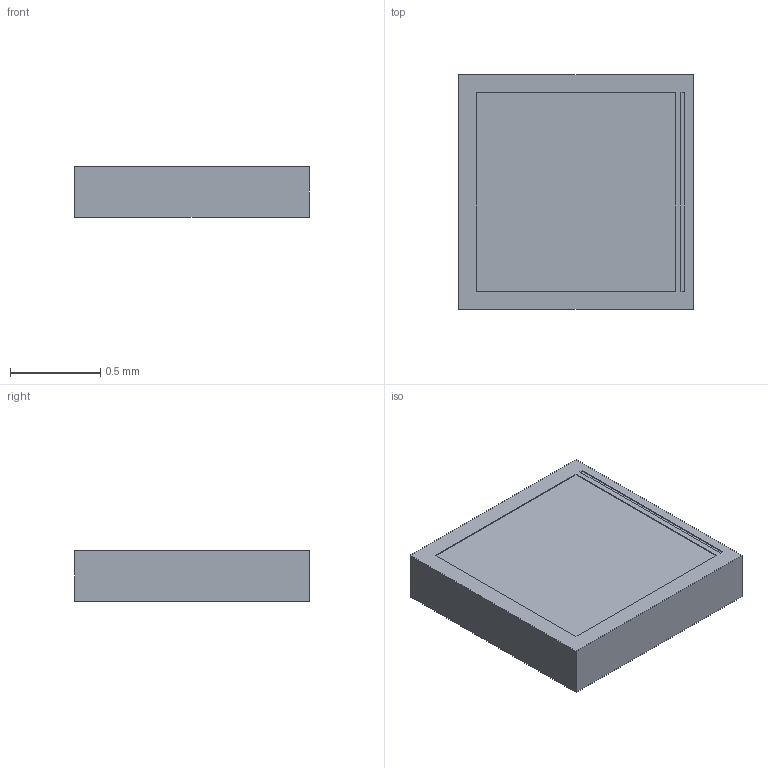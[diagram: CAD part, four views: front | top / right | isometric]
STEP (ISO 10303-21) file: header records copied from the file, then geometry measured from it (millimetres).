
FILE_DESCRIPTION (( 'STEP AP214' ), '1' );
FILE_NAME ('CSP1313-3D.STEP', '2023-12-07T03:02:34', ( '' ), ( '' ), 'SwSTEP 2.0', 'SolidWorks 2021', '' );
FILE_SCHEMA (( 'AUTOMOTIVE_DESIGN' ));
Length unit declared in the file: millimetre
Products named in the file (1): CSP1313-3D
Bounding box: 1.3 x 1.3 x 0.28 mm (x, y, z)
Volume: 0.5 mm3; surface area: 6 mm2
Topology: 3 solids, 3 shells, 64 faces, 156 edges, 104 vertices
Faces by surface type: plane 64
Entity records: 1914 total; most frequent: CARTESIAN_POINT 325, ORIENTED_EDGE 312, DIRECTION 286, LINE 156, VECTOR 156, EDGE_CURVE 156, VERTEX_POINT 104, EDGE_LOOP 70
